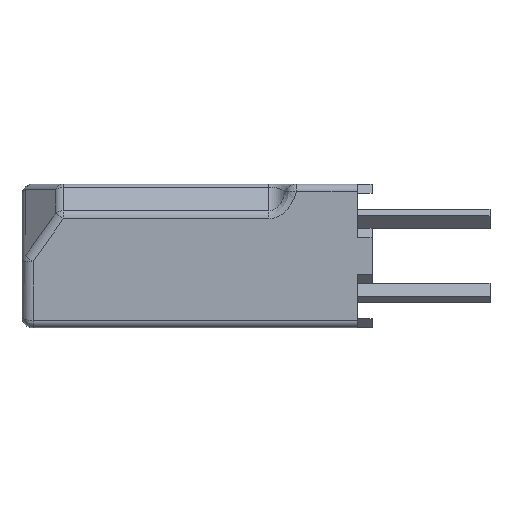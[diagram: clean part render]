
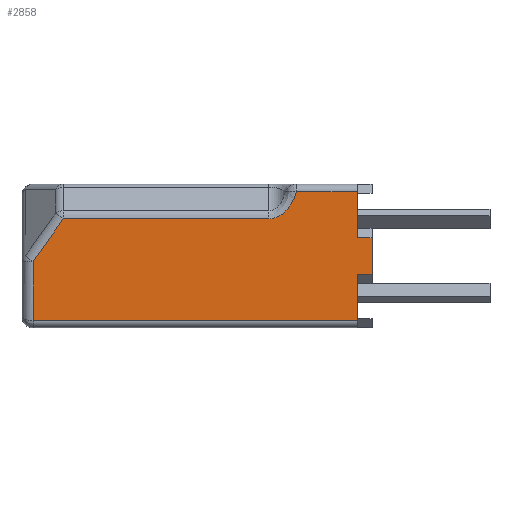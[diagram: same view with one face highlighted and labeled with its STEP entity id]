
A CAD part, left-side view. The second image highlights one B-rep face of the part: STEP entity #2858.
In plain terms, the highlighted planar face has unit normal (-1, 0, 0).
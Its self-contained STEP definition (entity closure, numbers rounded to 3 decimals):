
#149 = VERTEX_POINT ( 'NONE', #15459 ) ;
#169 = EDGE_CURVE ( 'NONE', #12483, #14003, #6532, .T. ) ;
#593 = CARTESIAN_POINT ( 'NONE',  ( -1.95, 2.4, 1.012 ) ) ;
#1302 = EDGE_CURVE ( 'NONE', #5128, #15429, #8568, .T. ) ;
#1428 = VECTOR ( 'NONE', #2398, 1000. ) ;
#1569 = ORIENTED_EDGE ( 'NONE', *, *, #16462, .T. ) ;
#1651 = LINE ( 'NONE', #9594, #15096 ) ;
#1971 = ORIENTED_EDGE ( 'NONE', *, *, #14976, .T. ) ;
#2174 = LINE ( 'NONE', #18561, #15651 ) ;
#2398 = DIRECTION ( 'NONE',  ( 0., 0., -1. ) ) ;
#2723 = DIRECTION ( 'NONE',  ( 1., 0., 0. ) ) ;
#2778 = AXIS2_PLACEMENT_3D ( 'NONE', #9696, #2723, #14984 ) ;
#2858 = ADVANCED_FACE ( 'NONE', ( #9295 ), #13219, .F. ) ;
#2892 = VERTEX_POINT ( 'NONE', #9777 ) ;
#3614 = CARTESIAN_POINT ( 'NONE',  ( -1.95, 2.4, 1.012 ) ) ;
#3855 = EDGE_CURVE ( 'NONE', #15815, #9291, #12235, .T. ) ;
#5128 = VERTEX_POINT ( 'NONE', #16135 ) ;
#6047 = CARTESIAN_POINT ( 'NONE',  ( -1.95, 9.1, 1.75 ) ) ;
#6207 = CARTESIAN_POINT ( 'NONE',  ( -1.95, -0.4, 0.5 ) ) ;
#6532 = LINE ( 'NONE', #20605, #20508 ) ;
#7238 = CARTESIAN_POINT ( 'NONE',  ( -1.95, 9.1, -1.75 ) ) ;
#7461 = ORIENTED_EDGE ( 'NONE', *, *, #11857, .T. ) ;
#7637 = CARTESIAN_POINT ( 'NONE',  ( -1.95, 2.054, 1.012 ) ) ;
#8469 = ORIENTED_EDGE ( 'NONE', *, *, #19059, .F. ) ;
#8510 = LINE ( 'NONE', #6207, #22534 ) ;
#8522 = LINE ( 'NONE', #14805, #17823 ) ;
#8568 =( BOUNDED_CURVE ( )  B_SPLINE_CURVE ( 3, ( #11149, #19882, #7637, #593 ),
 .UNSPECIFIED., .F., .F. ) 
 B_SPLINE_CURVE_WITH_KNOTS ( ( 4, 4 ),
 ( 5.067, 6.283 ),
 .UNSPECIFIED. ) 
 CURVE ( )  GEOMETRIC_REPRESENTATION_ITEM ( )  RATIONAL_B_SPLINE_CURVE ( ( 1., 0.881, 0.881, 1. ) ) 
 REPRESENTATION_ITEM ( '' )  );
#8680 = CARTESIAN_POINT ( 'NONE',  ( -1.95, -0.4, 0.5 ) ) ;
#8852 = CARTESIAN_POINT ( 'NONE',  ( -1.95, 0., 1.95 ) ) ;
#8988 = ORIENTED_EDGE ( 'NONE', *, *, #14773, .T. ) ;
#9010 = LINE ( 'NONE', #8852, #17777 ) ;
#9234 = EDGE_CURVE ( 'NONE', #9291, #14003, #2174, .T. ) ;
#9291 = VERTEX_POINT ( 'NONE', #20572 ) ;
#9295 = FACE_OUTER_BOUND ( 'NONE', #18110, .T. ) ;
#9594 = CARTESIAN_POINT ( 'NONE',  ( -1.95, -0.4, 0.5 ) ) ;
#9648 = ORIENTED_EDGE ( 'NONE', *, *, #15733, .T. ) ;
#9675 = DIRECTION ( 'NONE',  ( 0., 0., -1. ) ) ;
#9696 = CARTESIAN_POINT ( 'NONE',  ( -1.95, 9.1, 1.95 ) ) ;
#9777 = CARTESIAN_POINT ( 'NONE',  ( -1.95, 0., 1.75 ) ) ;
#10144 = CARTESIAN_POINT ( 'NONE',  ( -1.95, 8.959, -0.378 ) ) ;
#10614 = ORIENTED_EDGE ( 'NONE', *, *, #1302, .T. ) ;
#10880 = CARTESIAN_POINT ( 'NONE',  ( -1.95, 8.8, -0.154 ) ) ;
#11149 = CARTESIAN_POINT ( 'NONE',  ( -1.95, 1.65, 1.75 ) ) ;
#11302 = LINE ( 'NONE', #19894, #1428 ) ;
#11585 = CARTESIAN_POINT ( 'NONE',  ( -1.95, 0., -0.5 ) ) ;
#11654 = DIRECTION ( 'NONE',  ( 0., 0., 1. ) ) ;
#11857 = EDGE_CURVE ( 'NONE', #12925, #149, #8510, .T. ) ;
#11907 = DIRECTION ( 'NONE',  ( 0., 0.577, -0.816 ) ) ;
#12235 = LINE ( 'NONE', #7238, #16911 ) ;
#12483 = VERTEX_POINT ( 'NONE', #13914 ) ;
#12925 = VERTEX_POINT ( 'NONE', #8680 ) ;
#13219 = PLANE ( 'NONE',  #2778 ) ;
#13303 = ORIENTED_EDGE ( 'NONE', *, *, #9234, .T. ) ;
#13914 = CARTESIAN_POINT ( 'NONE',  ( -1.95, -0.4, -0.5 ) ) ;
#14003 = VERTEX_POINT ( 'NONE', #11585 ) ;
#14773 = EDGE_CURVE ( 'NONE', #19418, #15815, #11302, .T. ) ;
#14805 = CARTESIAN_POINT ( 'NONE',  ( -1.95, 9.1, 1.012 ) ) ;
#14976 = EDGE_CURVE ( 'NONE', #21703, #19418, #18706, .T. ) ;
#14984 = DIRECTION ( 'NONE',  ( 0., 0., -1. ) ) ;
#15096 = VECTOR ( 'NONE', #9675, 1000. ) ;
#15154 = DIRECTION ( 'NONE',  ( 0., 1., 0. ) ) ;
#15305 = VECTOR ( 'NONE', #15154, 1000. ) ;
#15429 = VERTEX_POINT ( 'NONE', #3614 ) ;
#15441 = CARTESIAN_POINT ( 'NONE',  ( -1.95, 7.976, 1.012 ) ) ;
#15459 = CARTESIAN_POINT ( 'NONE',  ( -1.95, 0., 0.5 ) ) ;
#15651 = VECTOR ( 'NONE', #11654, 1000. ) ;
#15733 = EDGE_CURVE ( 'NONE', #15429, #21703, #8522, .T. ) ;
#15815 = VERTEX_POINT ( 'NONE', #22541 ) ;
#15859 = LINE ( 'NONE', #6047, #15305 ) ;
#16135 = CARTESIAN_POINT ( 'NONE',  ( -1.95, 1.65, 1.75 ) ) ;
#16418 = DIRECTION ( 'NONE',  ( 0., 1., 0. ) ) ;
#16462 = EDGE_CURVE ( 'NONE', #2892, #5128, #15859, .T. ) ;
#16595 = DIRECTION ( 'NONE',  ( 0., 1., 0. ) ) ;
#16696 = ORIENTED_EDGE ( 'NONE', *, *, #19904, .T. ) ;
#16911 = VECTOR ( 'NONE', #17702, 1000. ) ;
#17587 = DIRECTION ( 'NONE',  ( 0., 0., 1. ) ) ;
#17702 = DIRECTION ( 'NONE',  ( 0., -1., 0. ) ) ;
#17777 = VECTOR ( 'NONE', #17587, 1000. ) ;
#17823 = VECTOR ( 'NONE', #16418, 1000. ) ;
#18110 = EDGE_LOOP ( 'NONE', ( #16696, #1569, #10614, #9648, #1971, #8988, #18458, #13303, #21638, #8469, #7461 ) ) ;
#18151 = VECTOR ( 'NONE', #11907, 1000. ) ;
#18458 = ORIENTED_EDGE ( 'NONE', *, *, #3855, .T. ) ;
#18561 = CARTESIAN_POINT ( 'NONE',  ( -1.95, 0., 1.95 ) ) ;
#18706 = LINE ( 'NONE', #10144, #18151 ) ;
#19059 = EDGE_CURVE ( 'NONE', #12925, #12483, #1651, .T. ) ;
#19418 = VERTEX_POINT ( 'NONE', #10880 ) ;
#19882 = CARTESIAN_POINT ( 'NONE',  ( -1.95, 1.77, 1.291 ) ) ;
#19894 = CARTESIAN_POINT ( 'NONE',  ( -1.95, 8.8, -1.95 ) ) ;
#19904 = EDGE_CURVE ( 'NONE', #149, #2892, #9010, .T. ) ;
#20049 = DIRECTION ( 'NONE',  ( 0., 1., 0. ) ) ;
#20508 = VECTOR ( 'NONE', #20049, 1000. ) ;
#20572 = CARTESIAN_POINT ( 'NONE',  ( -1.95, 0., -1.75 ) ) ;
#20605 = CARTESIAN_POINT ( 'NONE',  ( -1.95, -0.4, -0.5 ) ) ;
#21638 = ORIENTED_EDGE ( 'NONE', *, *, #169, .F. ) ;
#21703 = VERTEX_POINT ( 'NONE', #15441 ) ;
#22534 = VECTOR ( 'NONE', #16595, 1000. ) ;
#22541 = CARTESIAN_POINT ( 'NONE',  ( -1.95, 8.8, -1.75 ) ) ;
